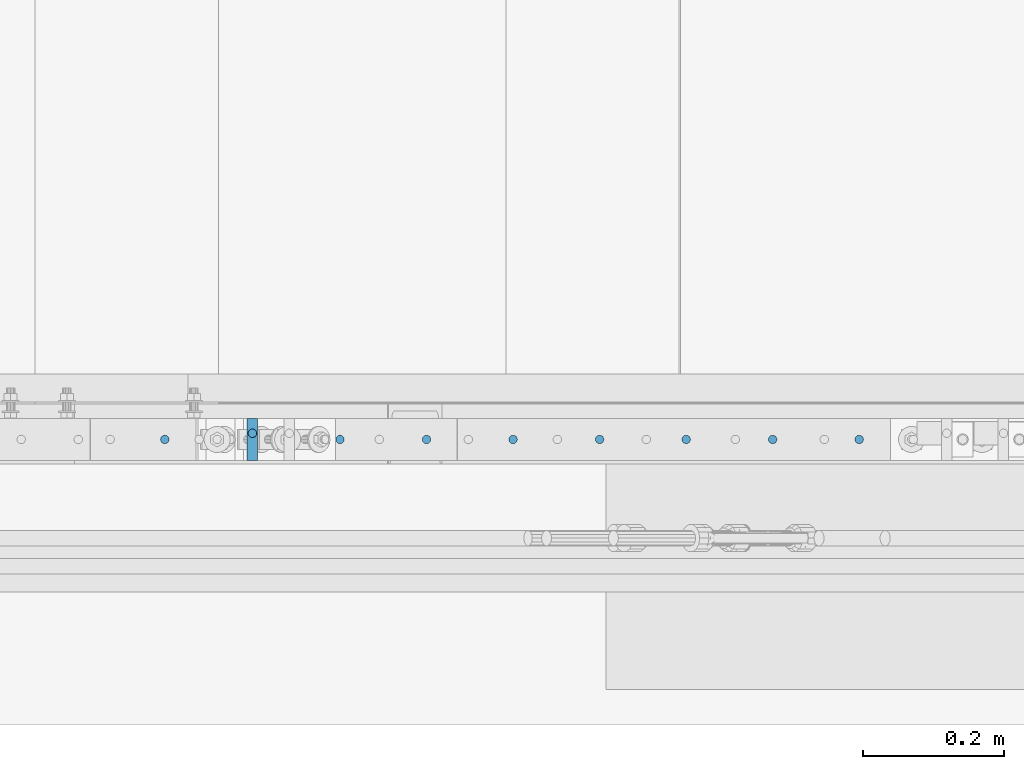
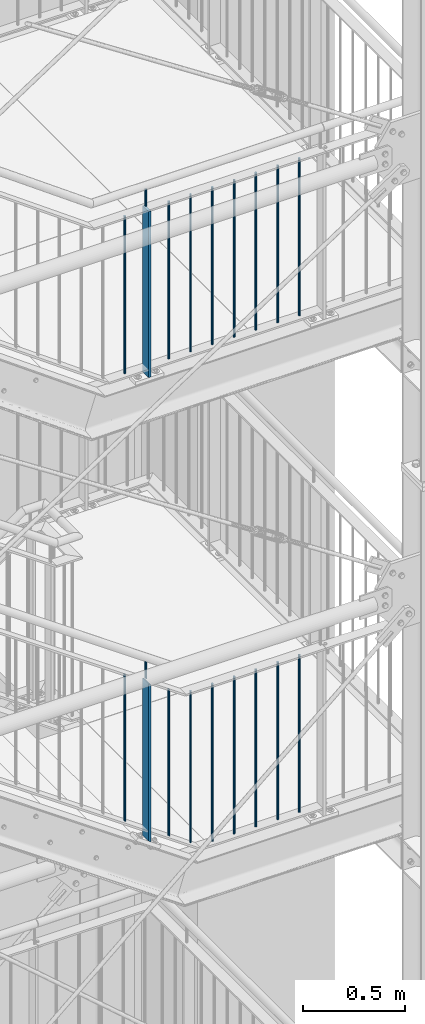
# One storey, part 85 of 831: 20 columns.
"""IFC2X3 building model written with IfcOpenShell, lengths in millimetres."""

import ifcopenshell
import ifcopenshell.guid

model = None  # the IFC model being written
_history = None  # IfcOwnerHistory: only IFC2X3 demands one
_inside = {}  # id of a spatial element -> (the spatial element, [elements in it])
_under = {}  # id of a project, library or spatial element -> (it, [spatial elements below it])
_declared = {}  # id of a project -> (the project, [libraries it declares])
_typed = {}  # id of a type object -> (the type object, [elements of that type])
_made_of = {}  # id of a material, layer set ... -> (it, [elements and type objects made of it])


def new_model(schema):
    """Start an empty IFC model of exactly this schema.

    Asked for "IFC4X3", IfcOpenShell would pick the latest addendum, in which some entities
    have other attributes; the version numbers below select the first issue.
    IFC2X3 requires an IfcOwnerHistory on every rooted entity: one is made here for all.
    """
    global model, _history
    if schema == "IFC4X3":
        model = ifcopenshell.file(schema_version=(4, 3, 0, 0))
    else:
        model = ifcopenshell.file(schema=schema)
    _inside.clear()
    _under.clear()
    _declared.clear()
    _typed.clear()
    _made_of.clear()
    _history = None
    if model.schema == "IFC2X3":
        org = make("IfcOrganization", Name="unknown")
        user = make(
            "IfcPersonAndOrganization",
            ThePerson=make("IfcPerson", FamilyName="unknown"),
            TheOrganization=org,
        )
        app = make(
            "IfcApplication",
            ApplicationDeveloper=org,
            Version="unknown",
            ApplicationFullName="unknown",
            ApplicationIdentifier="unknown",
        )
        _history = make(
            "IfcOwnerHistory",
            OwningUser=user,
            OwningApplication=app,
            ChangeAction="ADDED",
            CreationDate=0,
        )
    return model


def make(cls, **values):
    """One entity of the class cls with the attributes given. An attribute that is None is left unset."""
    return model.create_entity(
        cls, **{name: value for name, value in values.items() if value is not None}
    )


def entity(cls, *values):
    """Any entity or typed value of the class cls, its attributes in the order of the schema. None: left unset."""
    e = model.create_entity(cls)
    for i, value in enumerate(values):
        if value is not None:
            e[i] = value
    return e


def rooted(cls, **values):
    """An entity with a GlobalId (a new one), such as an element, a storey or a relation."""
    return make(cls, GlobalId=ifcopenshell.guid.new(), OwnerHistory=_history, **values)


def si_unit(unit_type, name, prefix=None):
    """IfcSIUnit, for example si_unit("LENGTHUNIT", "METRE", prefix="MILLI")."""
    return make("IfcSIUnit", UnitType=unit_type, Prefix=prefix, Name=name)


def converted_unit(unit_type, name, factor, base, dimensions=None, offset=None):
    """IfcConversionBasedUnit, such as the inch: factor (a typed value) times the base unit."""
    return make(
        "IfcConversionBasedUnit"
        if offset is None
        else "IfcConversionBasedUnitWithOffset",
        ConversionOffset=offset,
        Dimensions=None
        if dimensions is None
        else entity("IfcDimensionalExponents", *dimensions),
        UnitType=unit_type,
        Name=name,
        ConversionFactor=make(
            "IfcMeasureWithUnit", ValueComponent=factor, UnitComponent=base
        ),
    )


def assignment(units):
    """IfcUnitAssignment: the units of a project."""
    return None if units is None else make("IfcUnitAssignment", Units=units)


def point(xyz):
    """IfcCartesianPoint."""
    return None if xyz is None else make("IfcCartesianPoint", Coordinates=xyz)


def direction(xyz):
    """IfcDirection."""
    return None if xyz is None else make("IfcDirection", DirectionRatios=xyz)


def frame(location, z_axis=None, x_axis=None):
    """IfcAxis2Placement3D, a coordinate frame: its origin and axes. An axis left out is left unset."""
    return make(
        "IfcAxis2Placement3D",
        Location=point(location),
        Axis=direction(z_axis),
        RefDirection=direction(x_axis),
    )


def frame_2d(location, x_axis=None):
    """IfcAxis2Placement2D, a coordinate frame in the plane: its origin and x axis."""
    return make(
        "IfcAxis2Placement2D", Location=point(location), RefDirection=direction(x_axis)
    )


def origin():
    """The frame at (0, 0, 0) with its axes left unset."""
    return frame((0.0, 0.0, 0.0))


def origin_with_axes():
    """The frame at (0, 0, 0) with the z axis (0, 0, 1) and the x axis (1, 0, 0) written out."""
    return frame((0.0, 0.0, 0.0), z_axis=(0.0, 0.0, 1.0), x_axis=(1.0, 0.0, 0.0))


def origin_2d():
    """The frame at (0, 0) in the plane with its x axis left unset."""
    return frame_2d((0.0, 0.0))


def place(relative_to, where):
    """IfcLocalPlacement: puts the frame where relative to a parent placement (None: the world)."""
    return make(
        "IfcLocalPlacement", PlacementRelTo=relative_to, RelativePlacement=where
    )


def context(
    kind, dimensions, precision=None, world=None, true_north=None, identifier=None
):
    """IfcGeometricRepresentationContext, for example the 3D "Model" context."""
    return make(
        "IfcGeometricRepresentationContext",
        ContextIdentifier=identifier,
        ContextType=kind,
        CoordinateSpaceDimension=dimensions,
        Precision=precision,
        WorldCoordinateSystem=world,
        TrueNorth=true_north,
    )


def project(units=None, contexts=None):
    """IfcProject with its units and contexts."""
    return rooted(
        "IfcProject",
        Name="project",
        RepresentationContexts=contexts,
        UnitsInContext=assignment(units),
    )


def spatial(cls, under=None, at=None, **own):
    """A site, building, storey or space (cls), placed at a placement, below another one or the project."""
    s = rooted(cls, ObjectPlacement=at, **own)
    if under is not None:
        _under.setdefault(under.id(), (under, []))[1].append(s)
    return s


def profile(cls, at=None, kind="AREA", **sizes):
    """A parametric profile (cls). Its sizes go by their IFC names, for example OverallWidth=200.0."""
    return make(cls, ProfileType=kind, Position=at, **sizes)


def rectangle(**sizes):
    """IfcRectangleProfileDef."""
    return profile("IfcRectangleProfileDef", **sizes)


def circle(**sizes):
    """IfcCircleProfileDef."""
    return profile("IfcCircleProfileDef", **sizes)


def extrude(swept, where, along, depth):
    """IfcExtrudedAreaSolid: the profile swept, set in the frame where, extruded along a direction by depth."""
    return make(
        "IfcExtrudedAreaSolid",
        SweptArea=swept,
        Position=where,
        ExtrudedDirection=direction(along),
        Depth=depth,
    )


def clip(a, b, op="DIFFERENCE"):
    """IfcBooleanClippingResult: the solid a cut by the half space b."""
    return make(
        "IfcBooleanClippingResult", Operator=op, FirstOperand=a, SecondOperand=b
    )


def halfspace(plane, agree):
    """IfcHalfSpaceSolid: all space on one side of the plane z = 0 of the frame plane."""
    return make(
        "IfcHalfSpaceSolid",
        BaseSurface=make("IfcPlane", Position=plane),
        AgreementFlag=agree,
    )


def shape(context_of_items, identifier, shape_type, items):
    """IfcShapeRepresentation: the items that make up one representation, for example the "Body"."""
    return make(
        "IfcShapeRepresentation",
        ContextOfItems=context_of_items,
        RepresentationIdentifier=identifier,
        RepresentationType=shape_type,
        Items=items,
    )


def material(Name=None, Category=None):
    """IfcMaterial."""
    return make("IfcMaterial", Name=Name, Category=Category)


def made_of(thing, what):
    """Note that an element or type object is made of a material, layer set ...; save() writes the relation."""
    if what is not None:
        _made_of.setdefault(what.id(), (what, []))[1].append(thing)
    return thing


def element(
    cls,
    number,
    at=None,
    inside=None,
    cuts=None,
    type_object=None,
    material=None,
    context=None,
    identifier="Body",
    shape_type=None,
    held_by="IfcProductDefinitionShape",
    body=None,
    shapes=None,
    **own,
):
    """One element of the class cls, such as IfcWall. Its Tag is "e" and its number.

    at: its placement. inside: the storey or other place that contains it. cuts: it is an
    opening in that element (IfcRelVoidsElement). A single representation is given by context,
    identifier, shape_type and body (its items); several are given by shapes. held_by: the class
    of the entity that holds the representations. save() writes the other relations.
    """
    e = rooted(cls, Tag="e%d" % number, ObjectPlacement=at, **own)
    if body is not None:
        shapes = [shape(context, identifier, shape_type, body)]
    if shapes is not None:
        e.Representation = make(held_by, Representations=shapes)
    if inside is not None:
        _inside.setdefault(inside.id(), (inside, []))[1].append(e)
    if cuts is not None:
        rooted(
            "IfcRelVoidsElement", RelatingBuildingElement=cuts, RelatedOpeningElement=e
        )
    if type_object is not None:
        _typed.setdefault(type_object.id(), (type_object, []))[1].append(e)
    return made_of(e, material)


def aggregate(whole, parts):
    """IfcRelAggregates: a whole, such as a stair, and the parts it consists of."""
    return rooted("IfcRelAggregates", RelatingObject=whole, RelatedObjects=parts)


def save(model, path):
    """Write the relations noted so far, then the file.

    IfcRelAggregates (storeys below a building ...), IfcRelContainedInSpatialStructure (elements
    in a storey), IfcRelDefinesByType, IfcRelAssociatesMaterial and IfcRelDeclares: one each for
    every whole, place, type object, material and project.
    """
    for whole, parts in _under.values():
        aggregate(whole, parts)
    for where, things in _inside.values():
        rooted(
            "IfcRelContainedInSpatialStructure",
            RelatedElements=things,
            RelatingStructure=where,
        )
    for kind, things in _typed.values():
        rooted("IfcRelDefinesByType", RelatedObjects=things, RelatingType=kind)
    for what, things in _made_of.values():
        rooted("IfcRelAssociatesMaterial", RelatedObjects=things, RelatingMaterial=what)
    for by, libraries in _declared.values():
        rooted("IfcRelDeclares", RelatingContext=by, RelatedDefinitions=libraries)
    model.write(path)


model = new_model("IFC2X3")

# Units and contexts
model_context = context("Model", 3, precision=1e-09, world=origin_with_axes())
ifc_project = project(units=[si_unit("LENGTHUNIT", "METRE", prefix="MILLI"), si_unit("AREAUNIT", "SQUARE_METRE"), si_unit("VOLUMEUNIT", "CUBIC_METRE"), converted_unit("PLANEANGLEUNIT", "DEGREE", entity("IfcPlaneAngleMeasure", 0.01745329), si_unit("PLANEANGLEUNIT", "RADIAN"), dimensions=[0, 0, 0, 0, 0, 0, 0])], contexts=[model_context])

# Site, building, storey
site_placement = place(None, origin_with_axes())
site = spatial("IfcSite", under=ifc_project, at=site_placement, Name="Site", CompositionType="ELEMENT")
building_placement = place(site_placement, origin_with_axes())
building = spatial("IfcBuilding", under=site, at=building_placement, Name="Struktur 1", CompositionType="ELEMENT")
storey_placement = place(building_placement, origin_with_axes())
storey = spatial("IfcBuildingStorey", under=building, at=storey_placement, Name="Default Storey", CompositionType="ELEMENT", Elevation=0.0)

# Columns
ifc_material = material(Name="S235JR")
column_1_placement = place(None, frame((7364.792117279, 4526.736971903, 6863.544874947), z_axis=(0.0, 0.0, 1.0), x_axis=(-1.0, 0.0, 0.0)))
element("IfcColumn", 1, at=column_1_placement, inside=storey, material=ifc_material, Name="Railing_Post_Stair#9", ObjectType="Railing_Post_Stair#9", context=model_context, shape_type="Clipping", body=[
    clip(clip(extrude(rectangle(XDim=15.0, YDim=60.0, at=origin_2d()), origin(), (0.0, 0.0, -1.0), 1013.014378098), halfspace(frame((2158.312095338, 4526.736971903, 542.159503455), z_axis=(-0.57512827, 0.0, 0.818063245), x_axis=(0.0, -1.0, 0.0)), True)), halfspace(frame((1717.268514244, 4526.736971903, 1169.500502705), z_axis=(0.57512827, 0.0, -0.818063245), x_axis=(0.0, 1.0, 0.0)), True)),
])
column_2_placement = place(None, frame((8225.542260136, 4526.736971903, 6697.180018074), z_axis=(0.0, 0.0, 1.0), x_axis=(-1.0, 0.0, 0.0)))
element("IfcColumn", 2, at=column_2_placement, inside=storey, material=ifc_material, Name="Railing_Picket_Landing#55", ObjectType="Railing_Picket_Landing#55", context=model_context, shape_type="Clipping", body=[
    clip(clip(extrude(circle(Radius=6.0, at=origin_2d()), origin(), (0.0, 0.0, -1.0), 965.770562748), halfspace(frame((8225.542260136, 4526.736971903, -13.486281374), z_axis=(0.0, 0.0, -1.0), x_axis=(1.0, 0.0, 0.0)), True)), halfspace(frame((8225.542260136, 4526.736971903, -952.284281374), z_axis=(0.0, 0.0, 1.0), x_axis=(-1.0, 0.0, 0.0)), True)),
])
column_3_placement = place(None, frame((8102.792236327, 4526.736971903, 6697.180018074), z_axis=(0.0, 0.0, 1.0), x_axis=(-1.0, 0.0, 0.0)))
element("IfcColumn", 3, at=column_3_placement, inside=storey, material=ifc_material, Name="Railing_Picket_Landing#56", ObjectType="Railing_Picket_Landing#56", context=model_context, shape_type="Clipping", body=[
    clip(clip(extrude(circle(Radius=6.0, at=origin_2d()), origin(), (0.0, 0.0, -1.0), 965.770562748), halfspace(frame((8102.792236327, 4526.736971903, -13.486281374), z_axis=(0.0, 0.0, -1.0), x_axis=(1.0, 0.0, 0.0)), True)), halfspace(frame((8102.792236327, 4526.736971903, -952.284281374), z_axis=(0.0, 0.0, 1.0), x_axis=(-1.0, 0.0, 0.0)), True)),
])
column_4_placement = place(None, frame((7980.042212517, 4526.736971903, 6697.180018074), z_axis=(0.0, 0.0, 1.0), x_axis=(-1.0, 0.0, 0.0)))
element("IfcColumn", 4, at=column_4_placement, inside=storey, material=ifc_material, Name="Railing_Picket_Landing#57", ObjectType="Railing_Picket_Landing#57", context=model_context, shape_type="Clipping", body=[
    clip(clip(extrude(circle(Radius=6.0, at=origin_2d()), origin(), (0.0, 0.0, -1.0), 965.770562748), halfspace(frame((7980.042212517, 4526.736971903, -13.486281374), z_axis=(0.0, 0.0, -1.0), x_axis=(1.0, 0.0, 0.0)), True)), halfspace(frame((7980.042212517, 4526.736971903, -952.284281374), z_axis=(0.0, 0.0, 1.0), x_axis=(-1.0, 0.0, 0.0)), True)),
])
column_5_placement = place(None, frame((7857.292188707, 4526.736971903, 6697.180018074), z_axis=(0.0, 0.0, 1.0), x_axis=(-1.0, 0.0, 0.0)))
element("IfcColumn", 5, at=column_5_placement, inside=storey, material=ifc_material, Name="Railing_Picket_Landing#58", ObjectType="Railing_Picket_Landing#58", context=model_context, shape_type="Clipping", body=[
    clip(clip(extrude(circle(Radius=6.0, at=origin_2d()), origin(), (0.0, 0.0, -1.0), 965.770562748), halfspace(frame((7857.292188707, 4526.736971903, -13.486281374), z_axis=(0.0, 0.0, -1.0), x_axis=(1.0, 0.0, 0.0)), True)), halfspace(frame((7857.292188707, 4526.736971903, -952.284281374), z_axis=(0.0, 0.0, 1.0), x_axis=(-1.0, 0.0, 0.0)), True)),
])
column_6_placement = place(None, frame((7734.542164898, 4526.736971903, 6697.180018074), z_axis=(0.0, 0.0, 1.0), x_axis=(-1.0, 0.0, 0.0)))
element("IfcColumn", 6, at=column_6_placement, inside=storey, material=ifc_material, Name="Railing_Picket_Landing#59", ObjectType="Railing_Picket_Landing#59", context=model_context, shape_type="Clipping", body=[
    clip(clip(extrude(circle(Radius=6.0, at=origin_2d()), origin(), (0.0, 0.0, -1.0), 965.770562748), halfspace(frame((7734.542164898, 4526.736971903, -13.486281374), z_axis=(0.0, 0.0, -1.0), x_axis=(1.0, 0.0, 0.0)), True)), halfspace(frame((7734.542164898, 4526.736971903, -952.284281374), z_axis=(0.0, 0.0, 1.0), x_axis=(-1.0, 0.0, 0.0)), True)),
])
column_7_placement = place(None, frame((7611.792141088, 4526.736971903, 6683.6947367), z_axis=(0.0, 0.0, 1.0), x_axis=(-1.0, 0.0, 0.0)))
element("IfcColumn", 7, at=column_7_placement, inside=storey, material=ifc_material, Name="Railing_Picket_Stair#60", ObjectType="Railing_Picket_Stair#60", context=model_context, shape_type="SweptSolid", body=[
    extrude(circle(Radius=6.0, at=origin_2d()), origin(), (0.0, 0.0, -1.0), 903.675456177),
])
column_8_placement = place(None, frame((7489.042117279, 4526.736971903, 6748.76438721), z_axis=(0.0, 0.0, 1.0), x_axis=(-1.0, 0.0, 0.0)))
element("IfcColumn", 8, at=column_8_placement, inside=storey, material=ifc_material, Name="Railing_Picket_Stair#61", ObjectType="Railing_Picket_Stair#61", context=model_context, shape_type="Clipping", body=[
    clip(clip(extrude(circle(Radius=6.0, at=origin_2d()), origin(), (0.0, 0.0, -1.0), 897.037988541), halfspace(frame((1841.518514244, 4526.736971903, 1284.280990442), z_axis=(0.57512827, 0.0, -0.818063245), x_axis=(0.0, 1.0, 0.0)), True)), halfspace(frame((2253.805681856, 4526.736971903, 697.843153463), z_axis=(-0.57512827, 0.0, 0.818063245), x_axis=(0.0, -1.0, 0.0)), True)),
])
column_9_placement = place(None, frame((7240.542117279, 4526.736971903, 6923.46894188), z_axis=(0.0, 0.0, 1.0), x_axis=(-1.0, 0.0, 0.0)))
element("IfcColumn", 9, at=column_9_placement, inside=storey, material=ifc_material, Name="Railing_Picket_Stair#62", ObjectType="Railing_Picket_Stair#62", context=model_context, shape_type="Clipping", body=[
    clip(clip(extrude(circle(Radius=6.0, at=origin_2d()), origin(), (0.0, 0.0, -1.0), 897.037988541), halfspace(frame((1593.018514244, 4526.736971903, 1109.576435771), z_axis=(0.57512827, 0.0, -0.818063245), x_axis=(0.0, 1.0, 0.0)), True)), halfspace(frame((2005.305681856, 4526.736971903, 523.138598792), z_axis=(-0.57512827, 0.0, 0.818063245), x_axis=(0.0, -1.0, 0.0)), True)),
])
column_10_placement = place(None, frame((7364.792117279, 4535.536971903, 6948.340658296), z_axis=(0.0, 0.0, 1.0), x_axis=(0.0, 1.0, 0.0)))
element("IfcColumn", 10, at=column_10_placement, inside=storey, material=ifc_material, Name="Bar#9", ObjectType="Bar#9", context=model_context, shape_type="Clipping", body=[
    clip(clip(extrude(circle(Radius=6.0, at=origin_2d()), origin(), (0.0, 0.0, -1.0), 120.744805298), halfspace(frame((-4535.536971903, 1664.468101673, 1159.808099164), z_axis=(0.0, 0.57512827, -0.818063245), x_axis=(-1.0, 0.0, 0.0)), True)), halfspace(frame((-4535.536971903, 1711.516081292, 1092.886987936), z_axis=(0.0, -0.57512827, 0.818063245), x_axis=(1.0, 0.0, 0.0)), True)),
])
column_11_placement = place(None, frame((8225.542260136, 4526.736971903, 9658.285281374), z_axis=(0.0, 0.0, 1.0), x_axis=(-1.0, 0.0, 0.0)))
element("IfcColumn", 11, at=column_11_placement, inside=storey, material=ifc_material, Name="Railing_Picket_Landing#55", ObjectType="Railing_Picket_Landing#55", context=model_context, shape_type="Clipping", body=[
    clip(clip(extrude(circle(Radius=6.0, at=origin_2d()), origin(), (0.0, 0.0, -1.0), 965.770562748), halfspace(frame((8225.542260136, 4526.736971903, -13.486281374), z_axis=(0.0, 0.0, -1.0), x_axis=(1.0, 0.0, 0.0)), True)), halfspace(frame((8225.542260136, 4526.736971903, -952.284281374), z_axis=(0.0, 0.0, 1.0), x_axis=(-1.0, 0.0, 0.0)), True)),
])
column_12_placement = place(None, frame((8102.792236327, 4526.736971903, 9658.285281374), z_axis=(0.0, 0.0, 1.0), x_axis=(-1.0, 0.0, 0.0)))
element("IfcColumn", 12, at=column_12_placement, inside=storey, material=ifc_material, Name="Railing_Picket_Landing#56", ObjectType="Railing_Picket_Landing#56", context=model_context, shape_type="Clipping", body=[
    clip(clip(extrude(circle(Radius=6.0, at=origin_2d()), origin(), (0.0, 0.0, -1.0), 965.770562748), halfspace(frame((8102.792236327, 4526.736971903, -13.486281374), z_axis=(0.0, 0.0, -1.0), x_axis=(1.0, 0.0, 0.0)), True)), halfspace(frame((8102.792236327, 4526.736971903, -952.284281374), z_axis=(0.0, 0.0, 1.0), x_axis=(-1.0, 0.0, 0.0)), True)),
])
column_13_placement = place(None, frame((7980.042212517, 4526.736971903, 9658.285281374), z_axis=(0.0, 0.0, 1.0), x_axis=(-1.0, 0.0, 0.0)))
element("IfcColumn", 13, at=column_13_placement, inside=storey, material=ifc_material, Name="Railing_Picket_Landing#57", ObjectType="Railing_Picket_Landing#57", context=model_context, shape_type="Clipping", body=[
    clip(clip(extrude(circle(Radius=6.0, at=origin_2d()), origin(), (0.0, 0.0, -1.0), 965.770562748), halfspace(frame((7980.042212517, 4526.736971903, -13.486281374), z_axis=(0.0, 0.0, -1.0), x_axis=(1.0, 0.0, 0.0)), True)), halfspace(frame((7980.042212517, 4526.736971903, -952.284281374), z_axis=(0.0, 0.0, 1.0), x_axis=(-1.0, 0.0, 0.0)), True)),
])
column_14_placement = place(None, frame((7857.292188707, 4526.736971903, 9658.285281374), z_axis=(0.0, 0.0, 1.0), x_axis=(-1.0, 0.0, 0.0)))
element("IfcColumn", 14, at=column_14_placement, inside=storey, material=ifc_material, Name="Railing_Picket_Landing#58", ObjectType="Railing_Picket_Landing#58", context=model_context, shape_type="Clipping", body=[
    clip(clip(extrude(circle(Radius=6.0, at=origin_2d()), origin(), (0.0, 0.0, -1.0), 965.770562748), halfspace(frame((7857.292188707, 4526.736971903, -13.486281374), z_axis=(0.0, 0.0, -1.0), x_axis=(1.0, 0.0, 0.0)), True)), halfspace(frame((7857.292188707, 4526.736971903, -952.284281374), z_axis=(0.0, 0.0, 1.0), x_axis=(-1.0, 0.0, 0.0)), True)),
])
column_15_placement = place(None, frame((7734.542164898, 4526.736971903, 9658.285281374), z_axis=(0.0, 0.0, 1.0), x_axis=(-1.0, 0.0, 0.0)))
element("IfcColumn", 15, at=column_15_placement, inside=storey, material=ifc_material, Name="Railing_Picket_Landing#59", ObjectType="Railing_Picket_Landing#59", context=model_context, shape_type="Clipping", body=[
    clip(clip(extrude(circle(Radius=6.0, at=origin_2d()), origin(), (0.0, 0.0, -1.0), 965.770562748), halfspace(frame((7734.542164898, 4526.736971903, -13.486281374), z_axis=(0.0, 0.0, -1.0), x_axis=(1.0, 0.0, 0.0)), True)), halfspace(frame((7734.542164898, 4526.736971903, -952.284281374), z_axis=(0.0, 0.0, 1.0), x_axis=(-1.0, 0.0, 0.0)), True)),
])
column_16_placement = place(None, frame((7611.792141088, 4526.736971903, 9658.285281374), z_axis=(0.0, 0.0, 1.0), x_axis=(-1.0, 0.0, 0.0)))
element("IfcColumn", 16, at=column_16_placement, inside=storey, material=ifc_material, Name="Railing_Picket_Landing#60", ObjectType="Railing_Picket_Landing#60", context=model_context, shape_type="Clipping", body=[
    clip(clip(extrude(circle(Radius=6.0, at=origin_2d()), origin(), (0.0, 0.0, -1.0), 965.770562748), halfspace(frame((7611.792141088, 4526.736971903, -13.486281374), z_axis=(0.0, 0.0, -1.0), x_axis=(1.0, 0.0, 0.0)), True)), halfspace(frame((7611.792141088, 4526.736971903, -952.284281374), z_axis=(0.0, 0.0, 1.0), x_axis=(-1.0, 0.0, 0.0)), True)),
])
column_17_placement = place(None, frame((7489.042117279, 4526.736971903, 9658.285281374), z_axis=(0.0, 0.0, 1.0), x_axis=(-1.0, 0.0, 0.0)))
element("IfcColumn", 17, at=column_17_placement, inside=storey, material=ifc_material, Name="Railing_Picket_Landing#61", ObjectType="Railing_Picket_Landing#61", context=model_context, shape_type="Clipping", body=[
    clip(clip(extrude(circle(Radius=6.0, at=origin_2d()), origin(), (0.0, 0.0, -1.0), 965.770562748), halfspace(frame((7489.042117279, 4526.736971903, -13.486281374), z_axis=(0.0, 0.0, -1.0), x_axis=(1.0, 0.0, 0.0)), True)), halfspace(frame((7489.042117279, 4526.736971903, -952.284281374), z_axis=(0.0, 0.0, 1.0), x_axis=(-1.0, 0.0, 0.0)), True)),
])
column_18_placement = place(None, frame((7240.542117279, 4526.736971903, 9658.285281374), z_axis=(0.0, 0.0, 1.0), x_axis=(-1.0, 0.0, 0.0)))
element("IfcColumn", 18, at=column_18_placement, inside=storey, material=ifc_material, Name="Railing_Picket_Landing#62", ObjectType="Railing_Picket_Landing#62", context=model_context, shape_type="Clipping", body=[
    clip(clip(extrude(circle(Radius=6.0, at=origin_2d()), origin(), (0.0, 0.0, -1.0), 965.770562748), halfspace(frame((7240.542117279, 4526.736971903, -13.486281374), z_axis=(0.0, 0.0, -1.0), x_axis=(1.0, 0.0, 0.0)), True)), halfspace(frame((7240.542117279, 4526.736971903, -952.284281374), z_axis=(0.0, 0.0, 1.0), x_axis=(-1.0, 0.0, 0.0)), True)),
])
column_19_placement = place(None, frame((7364.792117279, 4535.536971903, 9763.285281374), z_axis=(0.0, 0.0, 1.0), x_axis=(0.0, 1.0, 0.0)))
element("IfcColumn", 19, at=column_19_placement, inside=storey, material=ifc_material, Name="Bar#9", ObjectType="Bar#9", context=model_context, shape_type="Clipping", body=[
    clip(clip(extrude(circle(Radius=6.0, at=origin_2d()), origin(), (0.0, 0.0, -1.0), 116.970562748), halfspace(frame((-4535.536971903, 7364.792117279, -8.486281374), z_axis=(0.0, 0.0, -1.0), x_axis=(0.0, 1.0, 0.0)), True)), halfspace(frame((-4535.536971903, 7364.792117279, -108.484281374), z_axis=(0.0, 0.0, 1.0), x_axis=(0.0, -1.0, 0.0)), True)),
])
column_20_placement = place(None, frame((7364.792117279, 4526.736971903, 9675.723292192), z_axis=(0.0, 0.0, 1.0), x_axis=(-1.0, 0.0, 0.0)))
element("IfcColumn", 20, at=column_20_placement, inside=storey, material=ifc_material, Name="Railing_Post_Landing#9", ObjectType="Railing_Post_Landing#9", context=model_context, shape_type="Clipping", body=[
    clip(clip(extrude(rectangle(XDim=15.0, YDim=60.0, at=origin_2d()), origin(), (0.0, 0.0, -1.0), 1070.646584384), halfspace(frame((7364.792117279, 4526.736971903, -1019.722292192), z_axis=(0.0, 0.0, 1.0), x_axis=(-1.0, 0.0, 0.0)), True)), halfspace(frame((7364.792117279, 4526.736971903, -30.924292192), z_axis=(0.0, 0.0, -1.0), x_axis=(1.0, 0.0, 0.0)), True)),
])

save(model, "model.ifc")
